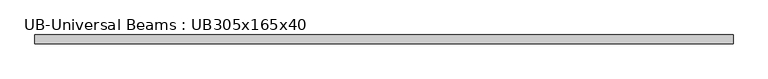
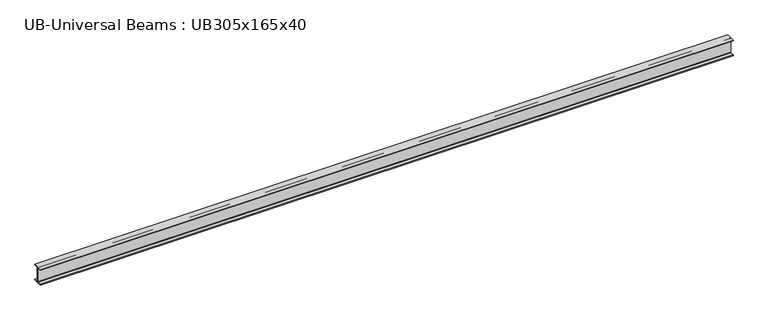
"""IFC4 building model written with IfcOpenShell, lengths in millimetres: beam geometry, UB-Universal Beams : UB305x165x40."""

import ifcopenshell
import ifcopenshell.guid

model = None  # the IFC model being written
_history = None  # IfcOwnerHistory: only IFC2X3 demands one
_inside = {}  # id of a spatial element -> (the spatial element, [elements in it])
_under = {}  # id of a project, library or spatial element -> (it, [spatial elements below it])
_declared = {}  # id of a project -> (the project, [libraries it declares])
_typed = {}  # id of a type object -> (the type object, [elements of that type])
_made_of = {}  # id of a material, layer set ... -> (it, [elements and type objects made of it])


def new_model(schema):
    """Start an empty IFC model of exactly this schema.

    Asked for "IFC4X3", IfcOpenShell would pick the latest addendum, in which some entities
    have other attributes; the version numbers below select the first issue.
    IFC2X3 requires an IfcOwnerHistory on every rooted entity: one is made here for all.
    """
    global model, _history
    if schema == "IFC4X3":
        model = ifcopenshell.file(schema_version=(4, 3, 0, 0))
    else:
        model = ifcopenshell.file(schema=schema)
    _inside.clear()
    _under.clear()
    _declared.clear()
    _typed.clear()
    _made_of.clear()
    _history = None
    if model.schema == "IFC2X3":
        org = make("IfcOrganization", Name="unknown")
        user = make(
            "IfcPersonAndOrganization",
            ThePerson=make("IfcPerson", FamilyName="unknown"),
            TheOrganization=org,
        )
        app = make(
            "IfcApplication",
            ApplicationDeveloper=org,
            Version="unknown",
            ApplicationFullName="unknown",
            ApplicationIdentifier="unknown",
        )
        _history = make(
            "IfcOwnerHistory",
            OwningUser=user,
            OwningApplication=app,
            ChangeAction="ADDED",
            CreationDate=0,
        )
    return model


def make(cls, **values):
    """One entity of the class cls with the attributes given. An attribute that is None is left unset."""
    return model.create_entity(
        cls, **{name: value for name, value in values.items() if value is not None}
    )


def rooted(cls, **values):
    """An entity with a GlobalId (a new one), such as an element, a storey or a relation."""
    return make(cls, GlobalId=ifcopenshell.guid.new(), OwnerHistory=_history, **values)


def si_unit(unit_type, name, prefix=None):
    """IfcSIUnit, for example si_unit("LENGTHUNIT", "METRE", prefix="MILLI")."""
    return make("IfcSIUnit", UnitType=unit_type, Prefix=prefix, Name=name)


def assignment(units):
    """IfcUnitAssignment: the units of a project."""
    return None if units is None else make("IfcUnitAssignment", Units=units)


def point(xyz):
    """IfcCartesianPoint."""
    return None if xyz is None else make("IfcCartesianPoint", Coordinates=xyz)


def direction(xyz):
    """IfcDirection."""
    return None if xyz is None else make("IfcDirection", DirectionRatios=xyz)


def frame(location, z_axis=None, x_axis=None):
    """IfcAxis2Placement3D, a coordinate frame: its origin and axes. An axis left out is left unset."""
    return make(
        "IfcAxis2Placement3D",
        Location=point(location),
        Axis=direction(z_axis),
        RefDirection=direction(x_axis),
    )


def frame_2d(location, x_axis=None):
    """IfcAxis2Placement2D, a coordinate frame in the plane: its origin and x axis."""
    return make(
        "IfcAxis2Placement2D", Location=point(location), RefDirection=direction(x_axis)
    )


def origin():
    """The frame at (0, 0, 0) with its axes left unset."""
    return frame((0.0, 0.0, 0.0))


def place(relative_to, where):
    """IfcLocalPlacement: puts the frame where relative to a parent placement (None: the world)."""
    return make(
        "IfcLocalPlacement", PlacementRelTo=relative_to, RelativePlacement=where
    )


def context(
    kind, dimensions, precision=None, world=None, true_north=None, identifier=None
):
    """IfcGeometricRepresentationContext, for example the 3D "Model" context."""
    return make(
        "IfcGeometricRepresentationContext",
        ContextIdentifier=identifier,
        ContextType=kind,
        CoordinateSpaceDimension=dimensions,
        Precision=precision,
        WorldCoordinateSystem=world,
        TrueNorth=true_north,
    )


def project(units=None, contexts=None):
    """IfcProject with its units and contexts."""
    return rooted(
        "IfcProject",
        Name="project",
        RepresentationContexts=contexts,
        UnitsInContext=assignment(units),
    )


def spatial(cls, under=None, at=None, **own):
    """A site, building, storey or space (cls), placed at a placement, below another one or the project."""
    s = rooted(cls, ObjectPlacement=at, **own)
    if under is not None:
        _under.setdefault(under.id(), (under, []))[1].append(s)
    return s


def polyline(points):
    """IfcPolyline through the points."""
    return make("IfcPolyline", Points=[point(p) for p in points])


def circle_curve(where, radius):
    """IfcCircle in the frame where."""
    return make("IfcCircle", Position=where, Radius=radius)


def trimmed(basis, trim1, trim2, sense, master):
    """IfcTrimmedCurve: the piece of a basis curve between two trims."""
    return make(
        "IfcTrimmedCurve",
        BasisCurve=basis,
        Trim1=trim1,
        Trim2=trim2,
        SenseAgreement=sense,
        MasterRepresentation=master,
    )


def segment(curve, same_sense, transition):
    """IfcCompositeCurveSegment."""
    return make(
        "IfcCompositeCurveSegment",
        Transition=transition,
        SameSense=same_sense,
        ParentCurve=curve,
    )


def composite_curve(segments, self_intersect=None):
    """IfcCompositeCurve: segments joined end to end."""
    return make("IfcCompositeCurve", Segments=segments, SelfIntersect=self_intersect)


def outline(outer, holes=None, kind="AREA"):
    """IfcArbitraryClosedProfileDef: a profile drawn as a closed curve; with holes, ...WithVoids."""
    if holes is None:
        return make("IfcArbitraryClosedProfileDef", ProfileType=kind, OuterCurve=outer)
    return make(
        "IfcArbitraryProfileDefWithVoids",
        ProfileType=kind,
        OuterCurve=outer,
        InnerCurves=holes,
    )


def extrude(swept, where, along, depth):
    """IfcExtrudedAreaSolid: the profile swept, set in the frame where, extruded along a direction by depth."""
    return make(
        "IfcExtrudedAreaSolid",
        SweptArea=swept,
        Position=where,
        ExtrudedDirection=direction(along),
        Depth=depth,
    )


def shape(context_of_items, identifier, shape_type, items):
    """IfcShapeRepresentation: the items that make up one representation, for example the "Body"."""
    return make(
        "IfcShapeRepresentation",
        ContextOfItems=context_of_items,
        RepresentationIdentifier=identifier,
        RepresentationType=shape_type,
        Items=items,
    )


def source(mapping_origin, context_of_items, identifier, shape_type, items):
    """IfcRepresentationMap: a shape defined once, which mapped items show again and again."""
    return make(
        "IfcRepresentationMap",
        MappingOrigin=mapping_origin,
        MappedRepresentation=shape(context_of_items, identifier, shape_type, items),
    )


def transform(
    local_origin,
    x_axis=None,
    y_axis=None,
    z_axis=None,
    scale=None,
    scale2=None,
    scale3=None,
    uniform=True,
):
    """IfcCartesianTransformationOperator3D, or its non-uniform kind. x_axis, y_axis, z_axis: its Axis1, 2, 3."""
    if uniform:
        return make(
            "IfcCartesianTransformationOperator3D",
            Axis1=direction(x_axis),
            Axis2=direction(y_axis),
            LocalOrigin=point(local_origin),
            Scale=scale,
            Axis3=direction(z_axis),
        )
    return make(
        "IfcCartesianTransformationOperator3DnonUniform",
        Axis1=direction(x_axis),
        Axis2=direction(y_axis),
        LocalOrigin=point(local_origin),
        Scale=scale,
        Axis3=direction(z_axis),
        Scale2=scale2,
        Scale3=scale3,
    )


def mapped(mapping_source, mapping_target):
    """IfcMappedItem: shows the shape of a source again, moved by a transform."""
    return make(
        "IfcMappedItem", MappingSource=mapping_source, MappingTarget=mapping_target
    )


def made_of(thing, what):
    """Note that an element or type object is made of a material, layer set ...; save() writes the relation."""
    if what is not None:
        _made_of.setdefault(what.id(), (what, []))[1].append(thing)
    return thing


def element(
    cls,
    number,
    at=None,
    inside=None,
    cuts=None,
    type_object=None,
    material=None,
    context=None,
    identifier="Body",
    shape_type=None,
    held_by="IfcProductDefinitionShape",
    body=None,
    shapes=None,
    **own,
):
    """One element of the class cls, such as IfcWall. Its Tag is "e" and its number.

    at: its placement. inside: the storey or other place that contains it. cuts: it is an
    opening in that element (IfcRelVoidsElement). A single representation is given by context,
    identifier, shape_type and body (its items); several are given by shapes. held_by: the class
    of the entity that holds the representations. save() writes the other relations.
    """
    e = rooted(cls, Tag="e%d" % number, ObjectPlacement=at, **own)
    if body is not None:
        shapes = [shape(context, identifier, shape_type, body)]
    if shapes is not None:
        e.Representation = make(held_by, Representations=shapes)
    if inside is not None:
        _inside.setdefault(inside.id(), (inside, []))[1].append(e)
    if cuts is not None:
        rooted(
            "IfcRelVoidsElement", RelatingBuildingElement=cuts, RelatedOpeningElement=e
        )
    if type_object is not None:
        _typed.setdefault(type_object.id(), (type_object, []))[1].append(e)
    return made_of(e, material)


def aggregate(whole, parts):
    """IfcRelAggregates: a whole, such as a stair, and the parts it consists of."""
    return rooted("IfcRelAggregates", RelatingObject=whole, RelatedObjects=parts)


def save(model, path):
    """Write the relations noted so far, then the file.

    IfcRelAggregates (storeys below a building ...), IfcRelContainedInSpatialStructure (elements
    in a storey), IfcRelDefinesByType, IfcRelAssociatesMaterial and IfcRelDeclares: one each for
    every whole, place, type object, material and project.
    """
    for whole, parts in _under.values():
        aggregate(whole, parts)
    for where, things in _inside.values():
        rooted(
            "IfcRelContainedInSpatialStructure",
            RelatedElements=things,
            RelatingStructure=where,
        )
    for kind, things in _typed.values():
        rooted("IfcRelDefinesByType", RelatedObjects=things, RelatingType=kind)
    for what, things in _made_of.values():
        rooted("IfcRelAssociatesMaterial", RelatedObjects=things, RelatingMaterial=what)
    for by, libraries in _declared.values():
        rooted("IfcRelDeclares", RelatingContext=by, RelatedDefinitions=libraries)
    model.write(path)


def ub_universal_beams_ub305x165x40_1d1fa9cd(model_context):
    return source(origin(), model_context, "Body", "SweptSolid", [
        extrude(outline(composite_curve([segment(polyline([(82.5, -141.5), (82.5, -151.7), (-82.5, -151.7), (-82.5, -141.5), (-11.9, -141.5)]), True, "CONTINUOUS"), segment(trimmed(circle_curve(frame_2d((-11.9, -132.6)), 8.9), [point((-11.9, -141.5))], [point((-3.0, -132.6))], True, "CARTESIAN"), True, "CONTINUOUS"), segment(polyline([(-3.0, -132.6), (-3.0, 132.6)]), True, "CONTINUOUS"), segment(trimmed(circle_curve(frame_2d((-11.9, 132.6)), 8.9), [point((-3.0, 132.6))], [point((-11.9, 141.5))], True, "CARTESIAN"), True, "CONTINUOUS"), segment(polyline([(-11.9, 141.5), (-82.5, 141.5), (-82.5, 151.7), (82.5, 151.7), (82.5, 141.5), (11.9, 141.5)]), True, "CONTINUOUS"), segment(trimmed(circle_curve(frame_2d((11.9, 132.6)), 8.9), [point((11.9, 141.5))], [point((3.0, 132.6))], True, "CARTESIAN"), True, "CONTINUOUS"), segment(polyline([(3.0, 132.6), (3.0, -132.6)]), True, "CONTINUOUS"), segment(trimmed(circle_curve(frame_2d((11.9, -132.6)), 8.9), [point((3.0, -132.6))], [point((11.9, -141.5))], True, "CARTESIAN"), True, "CONTINUOUS"), segment(polyline([(11.9, -141.5), (82.5, -141.5)]), True, "CONTINUOUS")], self_intersect=False)), frame((-6204.2, 0.0, 0.0), z_axis=(1.0, 0.0, 0.0), x_axis=(0.0, 1.0, 0.0)), (0.0, 0.0, 1.0), 12835.0),
    ])


if __name__ == "__main__":
    model = new_model("IFC4")
    model_context = context("Model", 3, world=origin())
    ifc_project = project(units=[si_unit("LENGTHUNIT", "METRE", prefix="MILLI")], contexts=[model_context])
    site = spatial("IfcSite", under=ifc_project)
    building = spatial("IfcBuilding", under=site)
    placement = place(None, origin())
    ub_universal_beams_ub305x165x40_shape = ub_universal_beams_ub305x165x40_1d1fa9cd(model_context)
    element("IfcBeam", 1, ObjectType="UB-Universal Beams : UB305x165x40", at=placement, inside=building, context=model_context, shape_type="MappedRepresentation", body=[
        mapped(ub_universal_beams_ub305x165x40_shape, transform((0.0, 0.0, 0.0), x_axis=(1.0, 0.0, 0.0), y_axis=(0.0, 1.0, 0.0), z_axis=(0.0, 0.0, 1.0))),
    ])
    save(model, "model.ifc")
